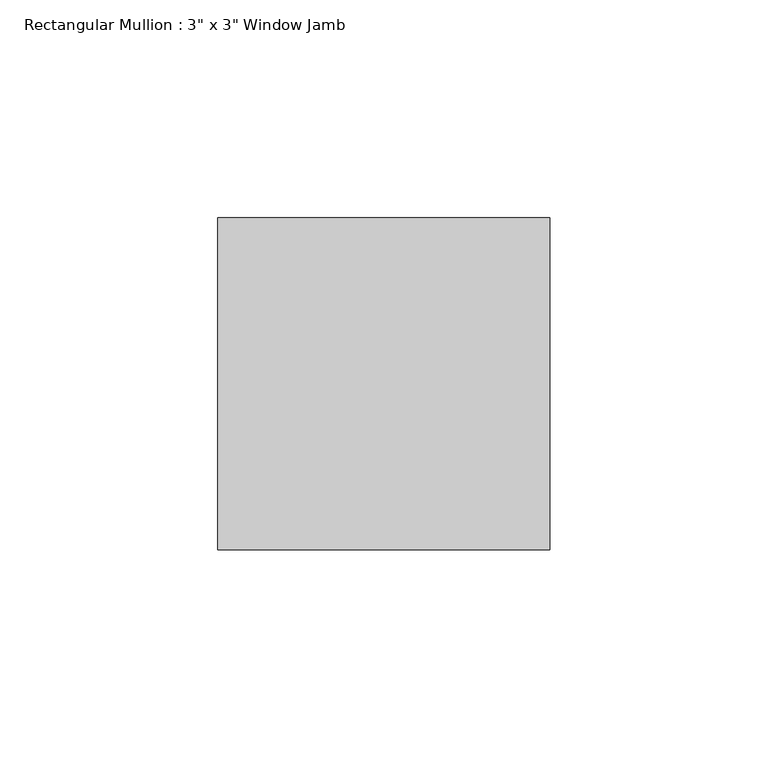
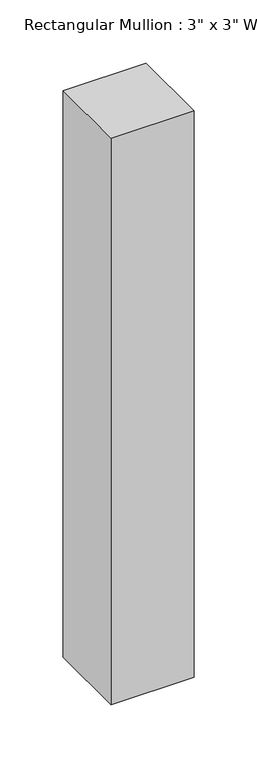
"""IFC4 building model written with IfcOpenShell, lengths in millimetres: member geometry."""

from ifc_helpers import new_model, si_unit, frame, origin, place, context, project, spatial, polyline, outline, extrude, source, transform, mapped, element, save


def member_a4f35c7f(model_context):
    return source(origin(), model_context, "Body", "SweptSolid", [
        extrude(outline(polyline([(0.0, 50.8), (0.0, -25.4), (-76.2, -25.4), (-76.2, 50.8), (0.0, 50.8)])), frame((0.0, 0.0, -548.8498817), z_axis=(0.0, 0.0, 1.0), x_axis=(1.0, 0.0, 0.0)), (0.0, 0.0, 1.0), 548.8498817),
    ])


if __name__ == "__main__":
    model = new_model("IFC4")
    model_context = context("Model", 3, world=origin())
    ifc_project = project(units=[si_unit("LENGTHUNIT", "METRE", prefix="MILLI")], contexts=[model_context])
    site = spatial("IfcSite", under=ifc_project)
    building = spatial("IfcBuilding", under=site)
    placement = place(None, origin())
    member_shape = member_a4f35c7f(model_context)
    element("IfcMember", 1, ObjectType="Rectangular Mullion : 3\" x 3\" Window Jamb", at=placement, inside=building, context=model_context, shape_type="MappedRepresentation", body=[
        mapped(member_shape, transform((0.0, 0.0, 0.0), x_axis=(1.0, 0.0, 0.0), y_axis=(0.0, 1.0, 0.0), z_axis=(0.0, 0.0, 1.0))),
    ])
    save(model, "model.ifc")
